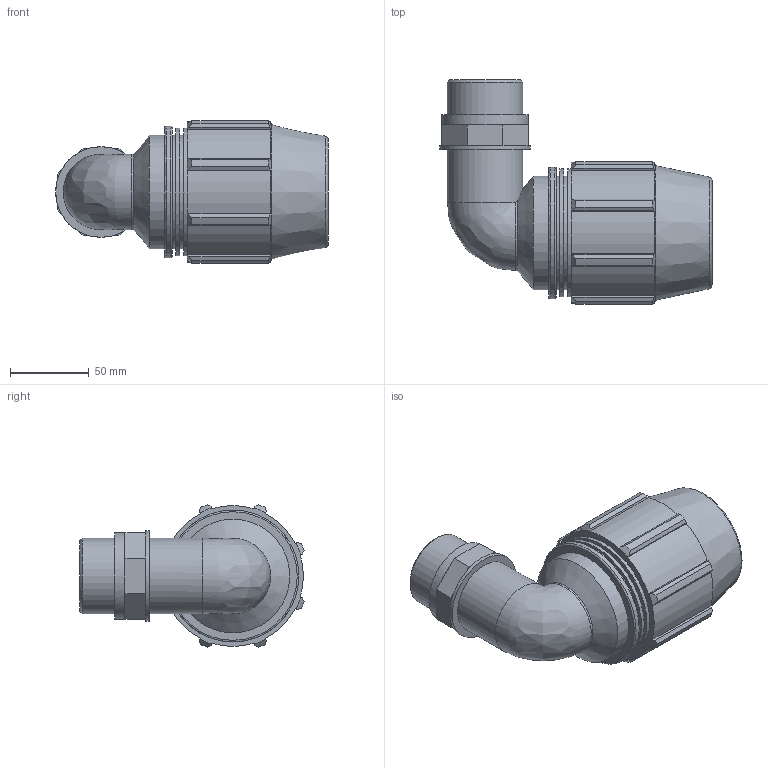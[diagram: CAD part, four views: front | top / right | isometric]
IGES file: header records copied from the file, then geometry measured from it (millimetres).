
Global section: file name: 077700050015_187700050015_0777060500150A.ipt; native system: Autodesk Inventor 2015; preprocessor: unknown; author: KIM; date: 20170622.103112; units: millimetre
Bounding box: 172.68 x 142.16 x 90.33 mm (x, y, z)
Volume: 556023.1 mm3; surface area: 94147.9 mm2
Topology: 1 solids, 1 shells, 125 faces, 320 edges, 205 vertices
Faces by surface type: plane 76, cylinder 27, cone 12, revolution 9, bspline 1
Full cylindrical faces by diameter (mm): 47.803 x2, 54.973 x1, 57.364 x1, 72 x3, 81.014 x2, 83.52 x1
